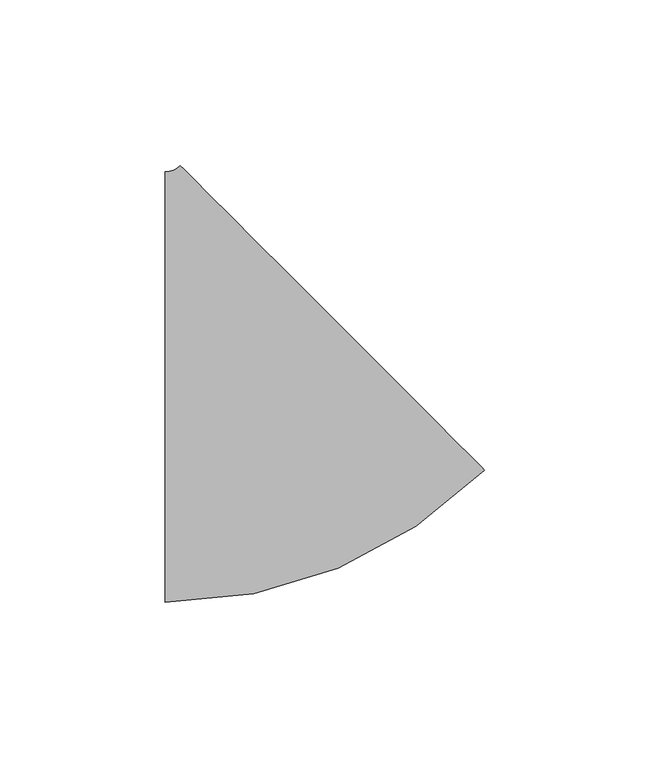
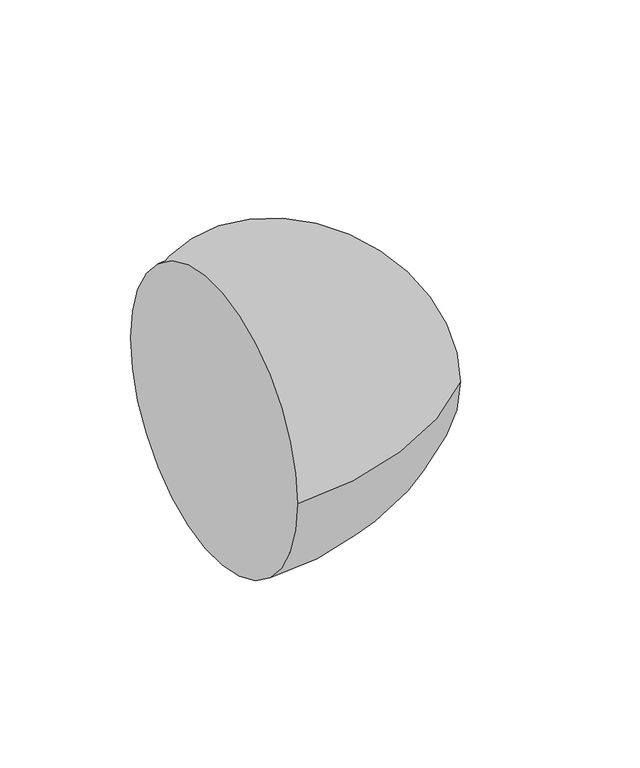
"""IFC4 building model written with IfcOpenShell, lengths in millimetres: pipe fitting geometry, M_Codo - Genérico : Estándar."""

from ifc_helpers import new_model, si_unit, point, frame, origin, place, context, project, spatial, circle_curve, ellipse_curve, trimmed, source, transform, mapped, element, save
from ifc_brep_helpers import plane_surface, revolved_surface, advanced_brep


def pipe_fitting_8d6f82bb(model_context):
    return source(origin(), model_context, "Body", "AdvancedBrep", [
        advanced_brep(
        [(-29.5896983, -65.0875, 0.0), (-29.5896983, 65.0875, 0.0), (66.9464792, -25.101829, 0.0), (-25.0996436, 66.9472987, 0.0)],
        [
            (0, 1, circle_curve(frame((-29.5896983, 0.0, 0.0), z_axis=(-1.0, 0.0, 0.0), x_axis=(0.0, 1.0, 0.0)), 65.0875)),
            (1, 0, circle_curve(frame((-29.5896983, 0.0, 0.0), z_axis=(-1.0, 0.0, 0.0), x_axis=(0.0, 1.0, 0.0)), 65.0875)),
            (2, 3, circle_curve(frame((20.9234178, 20.9227348, 0.0), z_axis=(0.7071183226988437, 0.7070952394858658, 0.0), x_axis=(-0.7070952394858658, 0.7071183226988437, 0.0)), 65.0875)),
            (3, 2, circle_curve(frame((20.9234178, 20.9227348, 0.0), z_axis=(0.7071183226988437, 0.7070952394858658, 0.0), x_axis=(-0.7070952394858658, 0.7071183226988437, 0.0)), 65.0875)),
            (3, 1, circle_curve(frame((-29.5896983, 71.4375, 0.0), z_axis=(0.0, 0.0, -1.0), x_axis=(0.0, -1.0, 0.0)), 6.35)),
            (0, 2, circle_curve(frame((-29.5896983, 71.4375, 0.0), z_axis=(0.0, 0.0, 1.0), x_axis=(0.0, -1.0, 0.0)), 136.525)),
        ],
        [
            plane_surface(frame((-29.5896983, 0.0, 0.0), z_axis=(-1.0, 0.0, 0.0), x_axis=(0.0, 0.0, 1.0))),
            plane_surface(frame((20.9234178, 20.9227348, 0.0), z_axis=(0.7071183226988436, 0.7070952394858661, 0.0), x_axis=(0.0, 0.0, 1.0))),
            revolved_surface(trimmed(ellipse_curve(frame((-29.5896983, 0.0, 0.0), z_axis=(-1.0, 0.0, 0.0), x_axis=(0.0, 1.0, 0.0)), 65.0875, 65.0875), [point((-29.5896983, -65.0875, 0.0))], [point((-29.5896983, 65.0875, 0.0))], True, "CARTESIAN"), (-29.5896983, 71.4375, 0.0), (0.0, 0.0, 1.0)),
            revolved_surface(trimmed(ellipse_curve(frame((-29.5896983, 0.0, 0.0), z_axis=(-1.0, 0.0, 0.0), x_axis=(0.0, 1.0, 0.0)), 65.0875, 65.0875), [point((-29.5896983, 65.0875, 0.0))], [point((-29.5896983, -65.0875, 0.0))], True, "CARTESIAN"), (-29.5896983, 71.4375, 0.0), (0.0, 0.0, 1.0)),
        ],
        [
            (0, [[1, 2]]),
            (1, [[3, 4]]),
            (2, [[5, -1, 6, -4]]),
            (3, [[-6, -2, -5, -3]]),
        ],
    ),
    ])


if __name__ == "__main__":
    model = new_model("IFC4")
    model_context = context("Model", 3, world=origin())
    ifc_project = project(units=[si_unit("LENGTHUNIT", "METRE", prefix="MILLI")], contexts=[model_context])
    site = spatial("IfcSite", under=ifc_project)
    building = spatial("IfcBuilding", under=site)
    placement = place(None, origin())
    pipe_fitting_shape = pipe_fitting_8d6f82bb(model_context)
    element("IfcPipeFitting", 1, ObjectType="M_Codo - Genérico : Estándar", at=placement, inside=building, context=model_context, shape_type="MappedRepresentation", body=[
        mapped(pipe_fitting_shape, transform((0.0, 0.0, 0.0), x_axis=(1.0, 0.0, 0.0), y_axis=(0.0, 1.0, 0.0), z_axis=(0.0, 0.0, 1.0))),
    ])
    save(model, "model.ifc")
